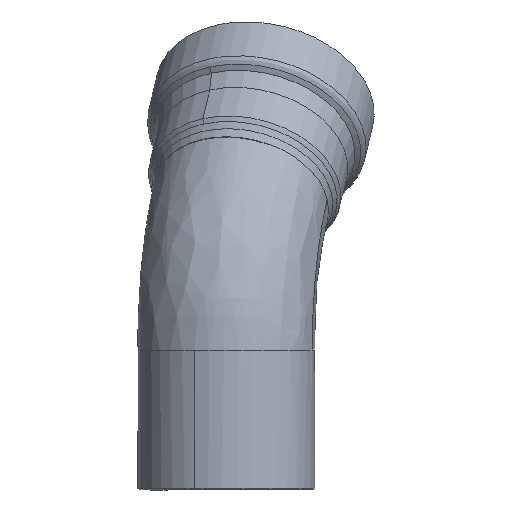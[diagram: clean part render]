
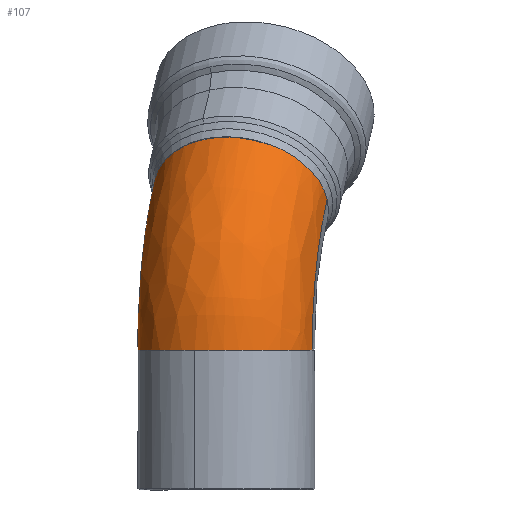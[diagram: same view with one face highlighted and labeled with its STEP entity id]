
A CAD part, left-side view. The second image highlights one B-rep face of the part: STEP entity #107.
In plain terms, the highlighted free-form (B-spline) face has degree [2, 2] with [7, 3] control points.
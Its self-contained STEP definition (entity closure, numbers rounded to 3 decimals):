
#107=ADVANCED_FACE('',(#209),#210,.T.);
#209=FACE_OUTER_BOUND('',#773,.T.);
#210=(B_SPLINE_SURFACE(2,2,((#775,#776,#777),(#778,#779,#780),(#781,#782,#783),(#784,#785,#786),(#787,#788,#789),(#790,#791,#792),(#793,#794,#795)),.UNSPECIFIED.,.F.,.F.,.F.)B_SPLINE_SURFACE_WITH_KNOTS((3,2,2,3),(3,3),(0.028,0.38,0.761,0.975),(0.0,0.973),.UNSPECIFIED.)RATIONAL_B_SPLINE_SURFACE(((0.929,0.747,0.708),(0.538,0.433,0.41),(1.0,0.804,0.762),(0.5,0.402,0.381),(1.0,0.804,0.762),(0.72,0.579,0.549),(0.754,0.606,0.574)))BOUNDED_SURFACE()REPRESENTATION_ITEM('')GEOMETRIC_REPRESENTATION_ITEM()SURFACE());
#773=EDGE_LOOP('',(#1038,#1039,#1040,#1041,#1042,#1043,#1044,#1045,#1046,#1047));
#775=CARTESIAN_POINT('',(7.693,30.804,-31.48));
#776=CARTESIAN_POINT('',(7.693,30.804,0.488));
#777=CARTESIAN_POINT('',(29.907,25.342,22.819));
#778=CARTESIAN_POINT('',(-38.059,42.231,-31.48));
#779=CARTESIAN_POINT('',(-38.059,42.231,20.354));
#780=CARTESIAN_POINT('',(-2.041,33.374,56.563));
#781=CARTESIAN_POINT('',(-31.435,-4.46,-31.48));
#782=CARTESIAN_POINT('',(-31.435,-4.46,12.948));
#783=CARTESIAN_POINT('',(-0.564,-12.05,43.983));
#784=CARTESIAN_POINT('',(-23.711,-58.907,-31.48));
#785=CARTESIAN_POINT('',(-23.711,-58.907,4.311));
#786=CARTESIAN_POINT('',(1.159,-65.022,29.314));
#787=CARTESIAN_POINT('',(19.58,-24.994,-31.48));
#788=CARTESIAN_POINT('',(19.58,-24.994,-9.987));
#789=CARTESIAN_POINT('',(34.514,-28.666,5.027));
#790=CARTESIAN_POINT('',(36.381,-11.832,-31.48));
#791=CARTESIAN_POINT('',(36.381,-11.832,-15.537));
#792=CARTESIAN_POINT('',(47.46,-14.556,-4.399));
#793=CARTESIAN_POINT('',(30.536,8.695,-31.48));
#794=CARTESIAN_POINT('',(30.536,8.695,-11.081));
#795=CARTESIAN_POINT('',(44.711,5.21,3.17));
#1038=ORIENTED_EDGE('',*,*,#1149,.F.);
#1039=ORIENTED_EDGE('',*,*,#1156,.T.);
#1040=ORIENTED_EDGE('',*,*,#1155,.F.);
#1041=ORIENTED_EDGE('',*,*,#1154,.T.);
#1042=ORIENTED_EDGE('',*,*,#1060,.T.);
#1043=ORIENTED_EDGE('',*,*,#1142,.T.);
#1044=ORIENTED_EDGE('',*,*,#1153,.T.);
#1045=ORIENTED_EDGE('',*,*,#1152,.T.);
#1046=ORIENTED_EDGE('',*,*,#1151,.F.);
#1047=ORIENTED_EDGE('',*,*,#1067,.F.);
#1060=EDGE_CURVE('',#1179,#1177,#1180,.T.);
#1067=EDGE_CURVE('',#1190,#1192,#1193,.T.);
#1142=EDGE_CURVE('',#1177,#1301,#1303,.T.);
#1149=EDGE_CURVE('',#1309,#1190,#1311,.T.);
#1151=EDGE_CURVE('',#1192,#1313,#1314,.T.);
#1152=EDGE_CURVE('',#1315,#1313,#1316,.T.);
#1153=EDGE_CURVE('',#1301,#1315,#1317,.T.);
#1154=EDGE_CURVE('',#1318,#1179,#1319,.T.);
#1155=EDGE_CURVE('',#1318,#1320,#1321,.T.);
#1156=EDGE_CURVE('',#1309,#1320,#1322,.T.);
#1177=VERTEX_POINT('',#1435);
#1179=VERTEX_POINT('',#1446);
#1180=(B_SPLINE_CURVE(2,(#1448,#1449,#1450),.UNSPECIFIED.,.F.,.F.)B_SPLINE_CURVE_WITH_KNOTS((3,3),(0.,1.571),.UNSPECIFIED.)RATIONAL_B_SPLINE_CURVE((1.0,0.707,1.0))BOUNDED_CURVE()REPRESENTATION_ITEM('')GEOMETRIC_REPRESENTATION_ITEM()CURVE());
#1190=VERTEX_POINT('',#1478);
#1192=VERTEX_POINT('',#1481);
#1193=CIRCLE('',#1482,31.75);
#1301=VERTEX_POINT('',#1844);
#1303=(B_SPLINE_CURVE(2,(#1858,#1859,#1860),.UNSPECIFIED.,.F.,.F.)B_SPLINE_CURVE_WITH_KNOTS((3,3),(1.571,3.142),.UNSPECIFIED.)RATIONAL_B_SPLINE_CURVE((1.0,0.707,1.0))BOUNDED_CURVE()REPRESENTATION_ITEM('')GEOMETRIC_REPRESENTATION_ITEM()CURVE());
#1309=VERTEX_POINT('',#1885);
#1311=CIRCLE('',#1887,31.75);
#1313=VERTEX_POINT('',#1889);
#1314=CIRCLE('',#1890,76.002);
#1315=VERTEX_POINT('',#1891);
#1316=CIRCLE('',#1892,31.75);
#1317=B_SPLINE_CURVE_WITH_KNOTS('',3,(#1893,#1894,#1895,#1896),.UNSPECIFIED.,.F.,.F.,(4,4),(0.0,1.0),.UNSPECIFIED.);
#1318=VERTEX_POINT('',#1897);
#1319=B_SPLINE_CURVE_WITH_KNOTS('',3,(#1898,#1899,#1900,#1901),.UNSPECIFIED.,.F.,.F.,(4,4),(0.0,1.0),.UNSPECIFIED.);
#1320=VERTEX_POINT('',#1902);
#1321=CIRCLE('',#1903,31.75);
#1322=CIRCLE('',#1904,76.002);
#1435=CARTESIAN_POINT('',(25.727,-35.019,11.817));
#1446=CARTESIAN_POINT('',(44.694,4.685,2.878));
#1448=CARTESIAN_POINT('',(44.694,4.685,2.878));
#1449=CARTESIAN_POINT('',(48.494,-24.942,-7.885));
#1450=CARTESIAN_POINT('',(25.727,-35.019,11.817));
#1478=CARTESIAN_POINT('',(-29.655,11.343,-31.48));
#1481=CARTESIAN_POINT('',(7.581,30.832,-31.48));
#1482=AXIS2_PLACEMENT_3D('',#1915,#1916,#1917);
#1844=CARTESIAN_POINT('',(-0.839,-15.469,42.283));
#1858=CARTESIAN_POINT('',(25.727,-35.019,11.817));
#1859=CARTESIAN_POINT('',(2.96,-45.096,31.519));
#1860=CARTESIAN_POINT('',(-0.839,-15.469,42.283));
#1885=CARTESIAN_POINT('',(-7.581,-30.832,-31.48));
#1887=AXIS2_PLACEMENT_3D('',#1985,#1986,#1987);
#1889=CARTESIAN_POINT('',(29.348,25.479,22.415));
#1890=AXIS2_PLACEMENT_3D('',#1988,#1989,#1990);
#1891=CARTESIAN_POINT('',(-1.,-15.429,42.118));
#1892=AXIS2_PLACEMENT_3D('',#1991,#1992,#1993);
#1893=CARTESIAN_POINT('',(-0.839,-15.469,42.283));
#1894=CARTESIAN_POINT('',(-0.893,-15.456,42.228));
#1895=CARTESIAN_POINT('',(-0.947,-15.442,42.173));
#1896=CARTESIAN_POINT('',(-1.,-15.429,42.118));
#1897=CARTESIAN_POINT('',(44.534,4.725,2.713));
#1898=CARTESIAN_POINT('',(44.534,4.725,2.713));
#1899=CARTESIAN_POINT('',(44.587,4.712,2.768));
#1900=CARTESIAN_POINT('',(44.641,4.699,2.823));
#1901=CARTESIAN_POINT('',(44.694,4.685,2.878));
#1902=CARTESIAN_POINT('',(14.186,-36.184,22.415));
#1903=AXIS2_PLACEMENT_3D('',#1994,#1995,#1996);
#1904=AXIS2_PLACEMENT_3D('',#1997,#1998,#1999);
#1915=CARTESIAN_POINT('',(0.,0.,-31.48));
#1916=DIRECTION('',(0.,0.,-1.0));
#1917=DIRECTION('',(-0.239,-0.971,0.));
#1985=CARTESIAN_POINT('',(0.,0.,-31.48));
#1986=DIRECTION('',(0.,0.,-1.0));
#1987=DIRECTION('',(-0.239,-0.971,0.));
#1988=CARTESIAN_POINT('',(81.384,12.685,-31.48));
#1989=DIRECTION('',(0.239,0.971,0.));
#1990=DIRECTION('',(-0.971,0.239,0.));
#1991=CARTESIAN_POINT('',(21.767,-5.352,22.415));
#1992=DIRECTION('',(-0.687,0.169,-0.707));
#1993=DIRECTION('',(-0.717,-0.317,0.621));
#1994=CARTESIAN_POINT('',(21.767,-5.352,22.415));
#1995=DIRECTION('',(-0.687,0.169,-0.707));
#1996=DIRECTION('',(0.717,0.317,-0.621));
#1997=CARTESIAN_POINT('',(66.222,-48.979,-31.48));
#1998=DIRECTION('',(0.239,0.971,0.));
#1999=DIRECTION('',(-0.971,0.239,0.));
